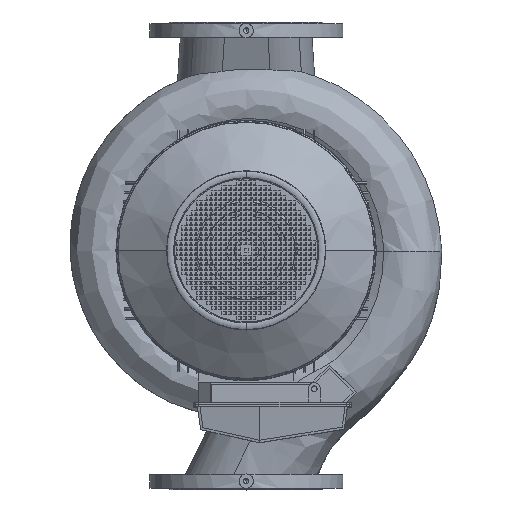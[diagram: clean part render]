
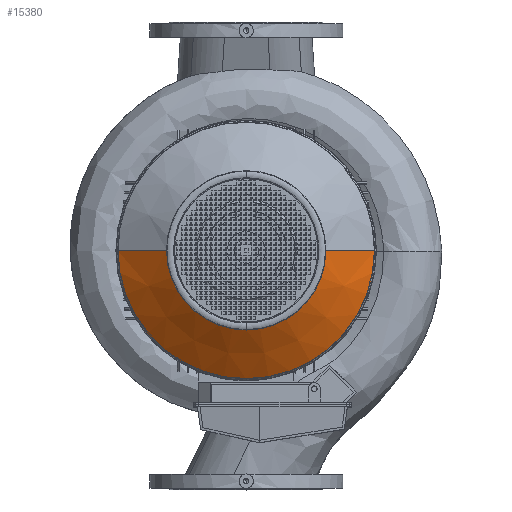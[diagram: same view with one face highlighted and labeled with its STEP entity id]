
A CAD part, top view. The second image highlights one B-rep face of the part: STEP entity #15380.
In plain terms, the highlighted conical face has half-angle 54.408 degrees and reference radius 218.23 mm.
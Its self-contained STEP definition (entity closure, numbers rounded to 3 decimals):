
#15380=ADVANCED_FACE('',(#34142),#34143,.T.);
#34142=FACE_OUTER_BOUND('',#60979,.T.);
#34143=CONICAL_SURFACE('',#60980,218.23,0.95);
#60979=EDGE_LOOP('',(#107934,#107935,#107936,#107937,#107938,#107939));
#60980=AXIS2_PLACEMENT_3D('',#107940,#107941,#107942);
#107934=ORIENTED_EDGE('',*,*,#113955,.T.);
#107935=ORIENTED_EDGE('',*,*,#113949,.F.);
#107936=ORIENTED_EDGE('',*,*,#120956,.F.);
#107937=ORIENTED_EDGE('',*,*,#113958,.T.);
#107938=ORIENTED_EDGE('',*,*,#120954,.T.);
#107939=ORIENTED_EDGE('',*,*,#113965,.T.);
#107940=CARTESIAN_POINT('',(201.553,0.0,0.0));
#107941=DIRECTION('',(-1.0,-0.0,-0.0));
#107942=DIRECTION('',(0.0,1.0,0.0));
#113949=EDGE_CURVE('',#126067,#126069,#126070,.T.);
#113955=EDGE_CURVE('',#126078,#126069,#126079,.T.);
#113958=EDGE_CURVE('',#126084,#126082,#126085,.T.);
#113965=EDGE_CURVE('',#126089,#126078,#126096,.T.);
#120954=EDGE_CURVE('',#126082,#126089,#135430,.T.);
#120956=EDGE_CURVE('',#126084,#126067,#135432,.T.);
#126067=VERTEX_POINT('',#144199);
#126069=VERTEX_POINT('',#144201);
#126070=CIRCLE('',#144202,167.0);
#126078=VERTEX_POINT('',#144210);
#126079=LINE('',#144211,#144212);
#126082=VERTEX_POINT('',#144215);
#126084=VERTEX_POINT('',#144217);
#126085=LINE('',#144218,#144219);
#126089=VERTEX_POINT('',#144223);
#126096=CIRCLE('',#144230,269.461);
#135430=CIRCLE('',#158820,269.461);
#135432=CIRCLE('',#158822,167.0);
#144199=CARTESIAN_POINT('',(238.22,0.,-167.0));
#144201=CARTESIAN_POINT('',(238.22,167.0,0.0));
#144202=AXIS2_PLACEMENT_3D('',#162687,#162688,#162689);
#144210=CARTESIAN_POINT('',(164.886,269.461,0.0));
#144211=CARTESIAN_POINT('',(201.553,218.23,0.));
#144212=VECTOR('',#162702,1.0);
#144215=CARTESIAN_POINT('',(164.886,-269.461,0.));
#144217=CARTESIAN_POINT('',(238.22,-167.0,0.));
#144218=CARTESIAN_POINT('',(201.553,-218.23,0.));
#144219=VECTOR('',#162709,1.0);
#144223=CARTESIAN_POINT('',(164.886,0.,-269.461));
#144230=AXIS2_PLACEMENT_3D('',#162725,#162726,#162727);
#158820=AXIS2_PLACEMENT_3D('',#167419,#167420,#167421);
#158822=AXIS2_PLACEMENT_3D('',#167422,#167423,#167424);
#162687=CARTESIAN_POINT('',(238.22,0.0,0.0));
#162688=DIRECTION('',(1.0,0.0,0.0));
#162689=DIRECTION('',(0.0,1.0,0.0));
#162702=DIRECTION('',(0.582,-0.813,0.));
#162709=DIRECTION('',(-0.582,-0.813,0.));
#162725=CARTESIAN_POINT('',(164.886,0.0,0.0));
#162726=DIRECTION('',(1.0,0.0,0.0));
#162727=DIRECTION('',(0.0,1.0,0.0));
#167419=CARTESIAN_POINT('',(164.886,0.0,0.0));
#167420=DIRECTION('',(1.0,0.0,0.0));
#167421=DIRECTION('',(0.0,1.0,0.0));
#167422=CARTESIAN_POINT('',(238.22,0.0,0.0));
#167423=DIRECTION('',(1.0,0.0,0.0));
#167424=DIRECTION('',(0.0,1.0,0.0));
